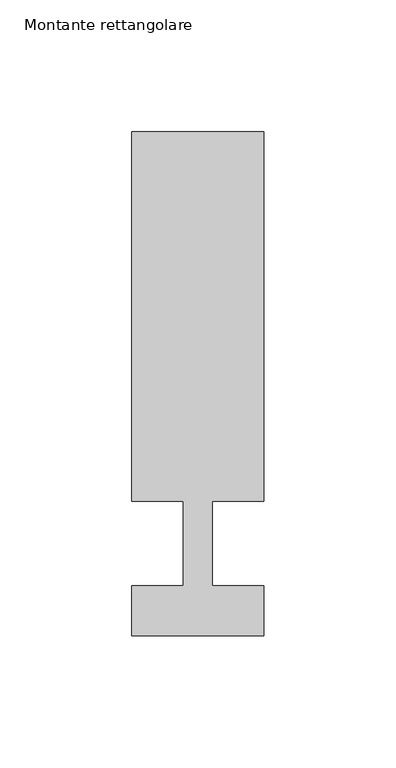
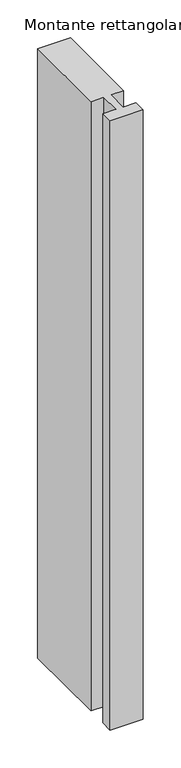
"""IFC4 building model written with IfcOpenShell, lengths in millimetres: member geometry, Montante rettangolare : Aluk_SL50_Traverso K744_vetro 32."""

from ifc_helpers import new_model, si_unit, frame, origin, place, context, project, spatial, polyline, outline, extrude, source, transform, mapped, element, save


def montante_rettangolare_7dba02f6(model_context):
    return source(origin(), model_context, "Body", "SweptSolid", [
        extrude(outline(polyline([(25.0694593, 156.0060769), (25.0694593, 15.9966791), (5.5694593, 15.9966791), (5.5694593, -15.9991081), (25.0568811, -15.9991081), (25.0568811, -34.9962149), (-24.9572318, -34.9962149), (-24.9572318, -15.9991081), (-5.4305407, -15.9991081), (-5.4305407, 15.9966791), (-24.9305407, 15.9966791), (-24.9305407, 156.0060769), (25.0694593, 156.0060769)])), frame((0.0, 0.0, -980.0992581), z_axis=(0.0, 0.0, 1.0), x_axis=(1.0, 0.0, 0.0)), (0.0, 0.0, 1.0), 980.0992581),
    ])


if __name__ == "__main__":
    model = new_model("IFC4")
    model_context = context("Model", 3, world=origin())
    ifc_project = project(units=[si_unit("LENGTHUNIT", "METRE", prefix="MILLI")], contexts=[model_context])
    site = spatial("IfcSite", under=ifc_project)
    building = spatial("IfcBuilding", under=site)
    placement = place(None, origin())
    montante_rettangolare_shape = montante_rettangolare_7dba02f6(model_context)
    element("IfcMember", 1, ObjectType="Montante rettangolare : Aluk_SL50_Traverso K744_vetro 32", at=placement, inside=building, context=model_context, shape_type="MappedRepresentation", body=[
        mapped(montante_rettangolare_shape, transform((0.0, 0.0, 0.0), x_axis=(1.0, 0.0, 0.0), y_axis=(0.0, 1.0, 0.0), z_axis=(0.0, 0.0, 1.0))),
    ])
    save(model, "model.ifc")
